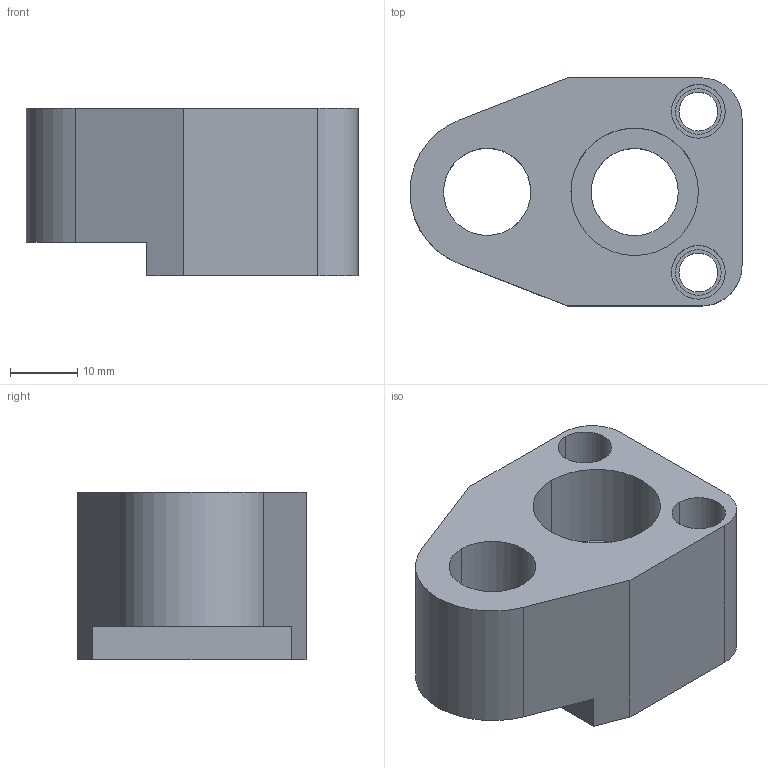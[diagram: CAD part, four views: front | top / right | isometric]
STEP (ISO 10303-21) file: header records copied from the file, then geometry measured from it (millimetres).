
FILE_DESCRIPTION(/* description */ (''),/* implementation_level */ '2;1');
FILE_NAME(/* name */ '3d_tp-fsn13_05677_r00.stp',/* time_stamp */ '2011-01-10T14:08:59+09:00',/* author */ ('MISUMI'),/* organization */ (''),/* preprocessor_version */ 'ST-DEVELOPER v11',/* originating_system */ 'UGS - NX 5.0',/* authorisation */ '');
FILE_SCHEMA (('CONFIG_CONTROL_DESIGN'));
Length unit declared in the file: millimetre
Products named in the file (1): 3d_tp-fsn13_05677_r00
Bounding box: 49.5 x 34 x 25 mm (x, y, z)
Volume: 23894.6 mm3; surface area: 8881.3 mm2
Topology: 1 solids, 1 shells, 37 faces, 92 edges, 61 vertices
Faces by surface type: cylinder 21, plane 14, cone 2
Entity records: 1228 total; most frequent: DIRECTION 212, CARTESIAN_POINT 196, ORIENTED_EDGE 184, EDGE_CURVE 92, AXIS2_PLACEMENT_3D 83, VERTEX_POINT 61, EDGE_LOOP 49, LINE 46
